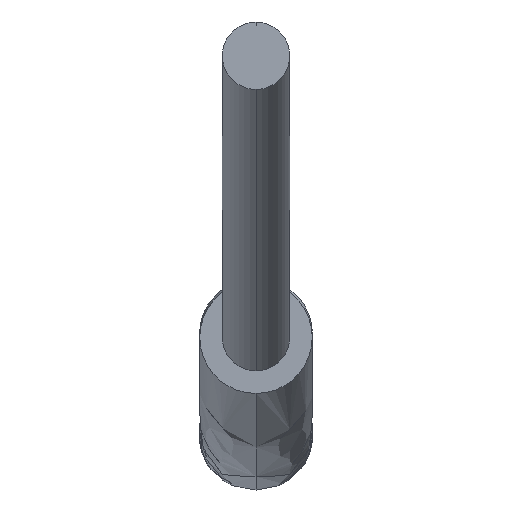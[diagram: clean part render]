
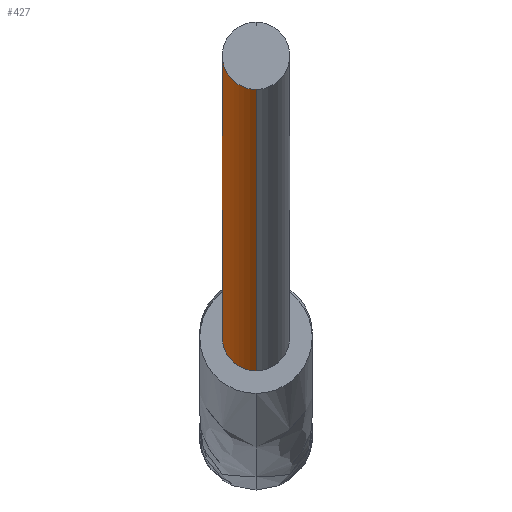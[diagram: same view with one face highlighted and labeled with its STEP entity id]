
A CAD part, front view. The second image highlights one B-rep face of the part: STEP entity #427.
In plain terms, the highlighted free-form (B-spline) face has degree [3, 1] with [4, 2] control points.
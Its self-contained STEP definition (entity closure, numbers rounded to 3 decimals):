
#16 = CIRCLE ( 'NONE', #389, 3. ) ;
#18 = VERTEX_POINT ( 'NONE', #392 ) ;
#33 = EDGE_LOOP ( 'NONE', ( #948, #87, #719, #827 ) ) ;
#62 = DIRECTION ( 'NONE',  ( 0., -1., 0. ) ) ;
#87 = ORIENTED_EDGE ( 'NONE', *, *, #942, .T. ) ;
#119 = CARTESIAN_POINT ( 'NONE',  ( 0., 6., -63. ) ) ;
#123 = CARTESIAN_POINT ( 'NONE',  ( 0., 60.295, -88.013 ) ) ;
#177 = VERTEX_POINT ( 'NONE', #1188 ) ;
#206 = CIRCLE ( 'NONE', #1156, 3. ) ;
#236 = CARTESIAN_POINT ( 'NONE',  ( 0., 6., -57. ) ) ;
#244 = LINE ( 'NONE', #236, #514 ) ;
#372 = VERTEX_POINT ( 'NONE', #792 ) ;
#374 = DIRECTION ( 'NONE',  ( 0., 0., -1. ) ) ;
#389 = AXIS2_PLACEMENT_3D ( 'NONE', #1152, #822, #374 ) ;
#392 = CARTESIAN_POINT ( 'NONE',  ( 0., 6., -63. ) ) ;
#427 = ADVANCED_FACE ( 'NONE', ( #1460 ), #493, .F. ) ;
#467 = CARTESIAN_POINT ( 'NONE',  ( -6., 6., -63. ) ) ;
#484 = VERTEX_POINT ( 'NONE', #565 ) ;
#493 =( BOUNDED_SURFACE ( )  B_SPLINE_SURFACE ( 3, 1, ( 
 ( #578, #1038 ),
 ( #1015, #694 ),
 ( #467, #699 ),
 ( #1471, #123 ) ),
 .UNSPECIFIED., .F., .F., .T. ) 
 B_SPLINE_SURFACE_WITH_KNOTS ( ( 4, 4 ),
 ( 2, 2 ),
 ( 0., 1. ),
 ( 0., 1. ),
 .UNSPECIFIED. ) 
 GEOMETRIC_REPRESENTATION_ITEM ( )  RATIONAL_B_SPLINE_SURFACE ( (
 ( 1., 1.),
 ( 0.333, 0.333),
 ( 0.333, 0.333),
 ( 1., 1.) ) ) 
 REPRESENTATION_ITEM ( '' )  SURFACE ( )  );
#514 = VECTOR ( 'NONE', #804, 1000. ) ;
#526 = EDGE_CURVE ( 'NONE', #484, #177, #16, .T. ) ;
#539 = CARTESIAN_POINT ( 'NONE',  ( 0., 6., -60. ) ) ;
#565 = CARTESIAN_POINT ( 'NONE',  ( 0., 60.295, -82.013 ) ) ;
#578 = CARTESIAN_POINT ( 'NONE',  ( 0., 6., -57. ) ) ;
#622 = VECTOR ( 'NONE', #932, 1000. ) ;
#694 = CARTESIAN_POINT ( 'NONE',  ( -6., 60.295, -82.013 ) ) ;
#699 = CARTESIAN_POINT ( 'NONE',  ( -6., 60.295, -88.013 ) ) ;
#719 = ORIENTED_EDGE ( 'NONE', *, *, #526, .T. ) ;
#792 = CARTESIAN_POINT ( 'NONE',  ( 0., 6., -57. ) ) ;
#804 = DIRECTION ( 'NONE',  ( 0., 0.908, -0.418 ) ) ;
#822 = DIRECTION ( 'NONE',  ( 0., -1., 0. ) ) ;
#827 = ORIENTED_EDGE ( 'NONE', *, *, #967, .F. ) ;
#909 = LINE ( 'NONE', #119, #622 ) ;
#932 = DIRECTION ( 'NONE',  ( 0., 0.908, -0.418 ) ) ;
#942 = EDGE_CURVE ( 'NONE', #372, #484, #244, .T. ) ;
#948 = ORIENTED_EDGE ( 'NONE', *, *, #1218, .F. ) ;
#967 = EDGE_CURVE ( 'NONE', #18, #177, #909, .T. ) ;
#1015 = CARTESIAN_POINT ( 'NONE',  ( -6., 6., -57. ) ) ;
#1038 = CARTESIAN_POINT ( 'NONE',  ( 0., 60.295, -82.013 ) ) ;
#1152 = CARTESIAN_POINT ( 'NONE',  ( 0., 60.295, -85.013 ) ) ;
#1156 = AXIS2_PLACEMENT_3D ( 'NONE', #539, #62, #1205 ) ;
#1188 = CARTESIAN_POINT ( 'NONE',  ( 0., 60.295, -88.013 ) ) ;
#1205 = DIRECTION ( 'NONE',  ( 0., 0., -1. ) ) ;
#1218 = EDGE_CURVE ( 'NONE', #372, #18, #206, .T. ) ;
#1460 = FACE_OUTER_BOUND ( 'NONE', #33, .T. ) ;
#1471 = CARTESIAN_POINT ( 'NONE',  ( 0., 6., -63. ) ) ;
